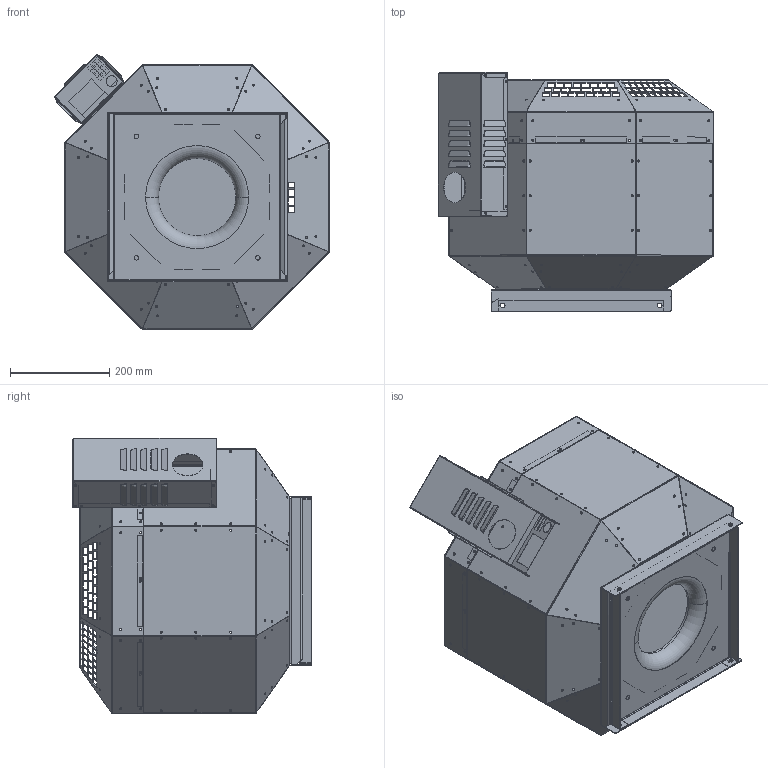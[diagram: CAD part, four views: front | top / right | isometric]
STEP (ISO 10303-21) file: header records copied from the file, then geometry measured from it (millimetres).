
FILE_DESCRIPTION (( 'STEP AP203' ), '1' );
FILE_NAME ('145035-01_DVNI250D230_step.step', '2018-08-29T12:42:27', ( '' ), ( '' ), 'SwSTEP 2.0', 'SolidWorks 2017', '' );
FILE_SCHEMA (( 'CONFIG_CONTROL_DESIGN' ));
Products named in the file (1): 145035-01_DVNI250D230_step
Bounding box: 555.07 x 482 x 555.07 mm (x, y, z)
Surface area: 2494513.3 mm2 (no closed solid volume)
Topology: 0 solids, 34 shells, 1629 faces, 6766 edges, 4836 vertices
Faces by surface type: plane 1063, cylinder 484, bspline 80, torus 2
Entity records: 88014 total; most frequent: CARTESIAN_POINT 31872, DIRECTION 10703, ORIENTED_EDGE 10595, EDGE_CURVE 6766, VECTOR 4935, LINE 4935, VERTEX_POINT 4836, AXIS2_PLACEMENT_3D 2884
